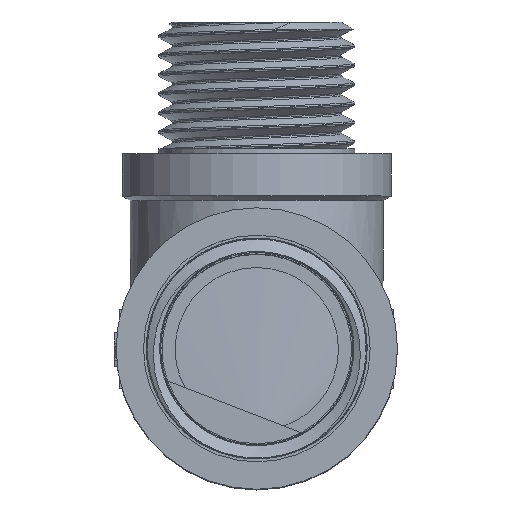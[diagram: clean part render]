
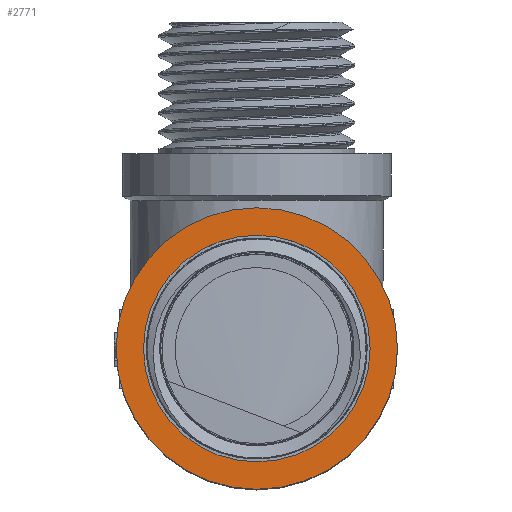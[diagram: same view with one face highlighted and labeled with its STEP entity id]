
A CAD part, top view. The second image highlights one B-rep face of the part: STEP entity #2771.
In plain terms, the highlighted planar face has unit normal (0, 0, 1).
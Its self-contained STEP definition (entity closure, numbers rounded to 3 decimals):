
#204=FACE_BOUND('',#534,.T.);
#276=PLANE('',#2966);
#375=FACE_OUTER_BOUND('',#533,.T.);
#533=EDGE_LOOP('',(#2203,#2204));
#534=EDGE_LOOP('',(#2205,#2206));
#1078=CIRCLE('',#2967,13.35);
#1079=CIRCLE('',#2968,13.35);
#1080=CIRCLE('',#2969,10.75);
#1081=CIRCLE('',#2970,10.75);
#1280=VERTEX_POINT('',#4478);
#1281=VERTEX_POINT('',#4479);
#1282=VERTEX_POINT('',#4482);
#1283=VERTEX_POINT('',#4483);
#1634=EDGE_CURVE('',#1280,#1281,#1078,.T.);
#1635=EDGE_CURVE('',#1281,#1280,#1079,.T.);
#1636=EDGE_CURVE('',#1282,#1283,#1080,.T.);
#1637=EDGE_CURVE('',#1283,#1282,#1081,.T.);
#2203=ORIENTED_EDGE('',*,*,#1634,.T.);
#2204=ORIENTED_EDGE('',*,*,#1635,.T.);
#2205=ORIENTED_EDGE('',*,*,#1636,.F.);
#2206=ORIENTED_EDGE('',*,*,#1637,.F.);
#2771=ADVANCED_FACE('',(#375,#204),#276,.T.);
#2966=AXIS2_PLACEMENT_3D('',#4477,#3419,#3420);
#2967=AXIS2_PLACEMENT_3D('',#4480,#3421,#3422);
#2968=AXIS2_PLACEMENT_3D('',#4481,#3423,#3424);
#2969=AXIS2_PLACEMENT_3D('',#4484,#3425,#3426);
#2970=AXIS2_PLACEMENT_3D('',#4485,#3427,#3428);
#3419=DIRECTION('center_axis',(0.,0.,1.));
#3420=DIRECTION('ref_axis',(1.,0.,0.));
#3421=DIRECTION('center_axis',(0.,0.,1.));
#3422=DIRECTION('ref_axis',(1.,0.,0.));
#3423=DIRECTION('center_axis',(0.,0.,1.));
#3424=DIRECTION('ref_axis',(1.,0.,0.));
#3425=DIRECTION('center_axis',(0.,0.,1.));
#3426=DIRECTION('ref_axis',(1.,0.,0.));
#3427=DIRECTION('center_axis',(0.,0.,1.));
#3428=DIRECTION('ref_axis',(1.,0.,0.));
#4477=CARTESIAN_POINT('Origin',(0.,-10.75,22.));
#4478=CARTESIAN_POINT('',(0.,-13.35,22.));
#4479=CARTESIAN_POINT('',(0.,13.35,22.));
#4480=CARTESIAN_POINT('Origin',(0.,0.,22.));
#4481=CARTESIAN_POINT('Origin',(0.,0.,22.));
#4482=CARTESIAN_POINT('',(0.,-10.75,22.));
#4483=CARTESIAN_POINT('',(0.,10.75,22.));
#4484=CARTESIAN_POINT('Origin',(0.,0.,22.));
#4485=CARTESIAN_POINT('Origin',(0.,0.,22.));
